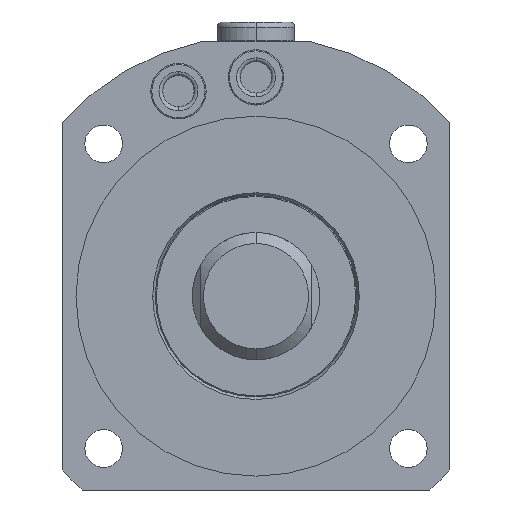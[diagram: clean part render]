
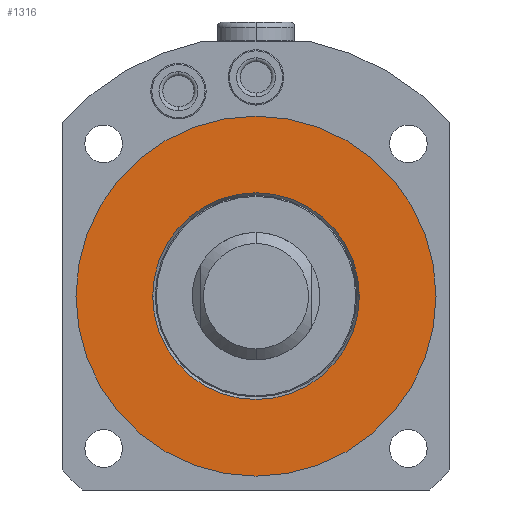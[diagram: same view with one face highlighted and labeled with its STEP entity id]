
A CAD part, front view. The second image highlights one B-rep face of the part: STEP entity #1316.
In plain terms, the highlighted planar face has unit normal (0, -1, 0).
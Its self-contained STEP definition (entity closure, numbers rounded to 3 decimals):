
#1117=PLANE('',#4376);
#1181=FACE_BOUND('',#1768,.T.);
#1182=FACE_BOUND('',#1769,.T.);
#1316=ADVANCED_FACE('',(#1181,#1182),#1117,.T.);
#1768=EDGE_LOOP('',(#2734,#2735));
#1769=EDGE_LOOP('',(#2736,#2737));
#2734=ORIENTED_EDGE('',*,*,#3641,.T.);
#2735=ORIENTED_EDGE('',*,*,#3751,.T.);
#2736=ORIENTED_EDGE('',*,*,#3635,.F.);
#2737=ORIENTED_EDGE('',*,*,#3752,.F.);
#3312=VERTEX_POINT('',#6203);
#3313=VERTEX_POINT('',#6204);
#3318=VERTEX_POINT('',#6215);
#3319=VERTEX_POINT('',#6217);
#3635=EDGE_CURVE('',#3312,#3313,#3984,.T.);
#3641=EDGE_CURVE('',#3319,#3318,#3987,.T.);
#3751=EDGE_CURVE('',#3318,#3319,#4037,.T.);
#3752=EDGE_CURVE('',#3313,#3312,#4038,.T.);
#3984=CIRCLE('',#4283,32.5);
#3987=CIRCLE('',#4287,18.662);
#4037=CIRCLE('',#4373,18.662);
#4038=CIRCLE('',#4375,32.5);
#4283=AXIS2_PLACEMENT_3D('',#6202,#4957,#4958);
#4287=AXIS2_PLACEMENT_3D('',#6216,#4968,#4969);
#4373=AXIS2_PLACEMENT_3D('',#6562,#5181,#5182);
#4375=AXIS2_PLACEMENT_3D('',#6564,#5185,#5186);
#4376=AXIS2_PLACEMENT_3D('',#6565,#5187,#5188);
#4957=DIRECTION('',(0.,1.,0.));
#4958=DIRECTION('',(-1.,0.,0.));
#4968=DIRECTION('',(0.,1.,0.));
#4969=DIRECTION('',(-1.,0.,0.));
#5181=DIRECTION('',(0.,1.,0.));
#5182=DIRECTION('',(-1.,0.,0.));
#5185=DIRECTION('',(0.,1.,0.));
#5186=DIRECTION('',(-1.,0.,0.));
#5187=DIRECTION('',(0.,-1.,0.));
#5188=DIRECTION('',(-1.,0.,0.));
#6202=CARTESIAN_POINT('',(0.,-85.,0.));
#6203=CARTESIAN_POINT('',(-32.5,-85.,0.));
#6204=CARTESIAN_POINT('',(32.5,-85.,0.));
#6215=CARTESIAN_POINT('',(-18.662,-85.,0.));
#6216=CARTESIAN_POINT('',(0.,-85.,0.));
#6217=CARTESIAN_POINT('',(18.662,-85.,0.));
#6562=CARTESIAN_POINT('',(0.,-85.,0.));
#6564=CARTESIAN_POINT('',(0.,-85.,0.));
#6565=CARTESIAN_POINT('',(-18.662,-85.,0.));
